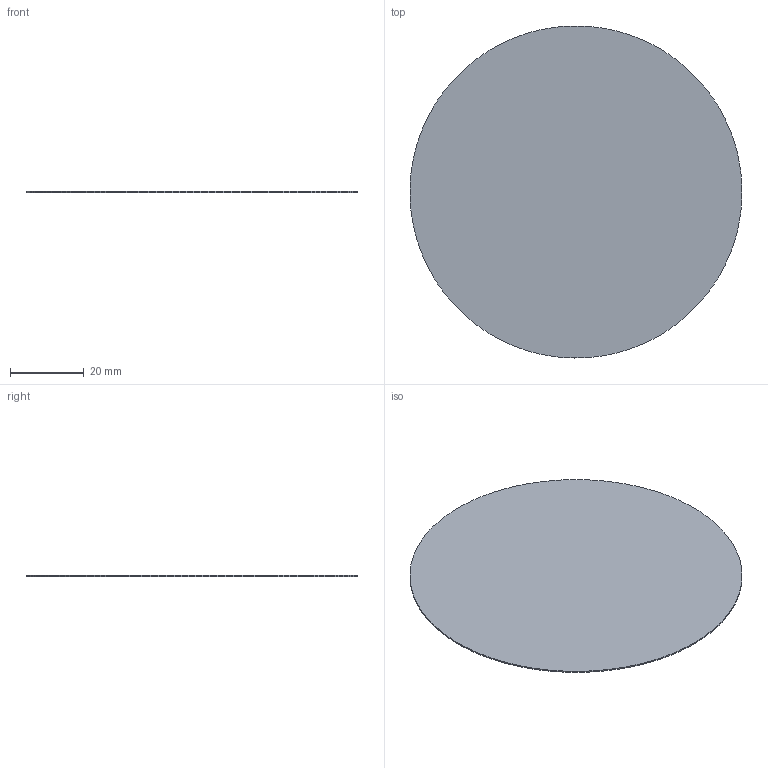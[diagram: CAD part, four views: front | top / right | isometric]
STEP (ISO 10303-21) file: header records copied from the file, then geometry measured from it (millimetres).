
FILE_DESCRIPTION(('Open CASCADE Model'),'2;1');
FILE_NAME('Open CASCADE Shape Model','2018-05-01T11:33:21',('Author'),( 'Open CASCADE'),'Open CASCADE STEP processor 6.8','Open CASCADE 6.8' ,'Unknown');
FILE_SCHEMA(('AUTOMOTIVE_DESIGN { 1 0 10303 214 1 1 1 1 }'));
Length unit declared in the file: millimetre
Products named in the file (2): PCB; Board
Assembly tree (1 placements, depth 2):
  PCB
    Board
Bounding box: 89.99 x 90 x 0.35 mm (x, y, z)
Volume: 2197.1 mm3; surface area: 12818.5 mm2
Topology: 1 solids, 1 shells, 181 faces, 537 edges, 358 vertices
Faces by surface type: plane 181
Entity records: 12951 total; most frequent: CARTESIAN_POINT 2152, DIRECTION 1977, LINE 1611, VECTOR 1611, ORIENTED_EDGE 1074, PCURVE 1074, DEFINITIONAL_REPRESENTATION 1074, EDGE_CURVE 537
